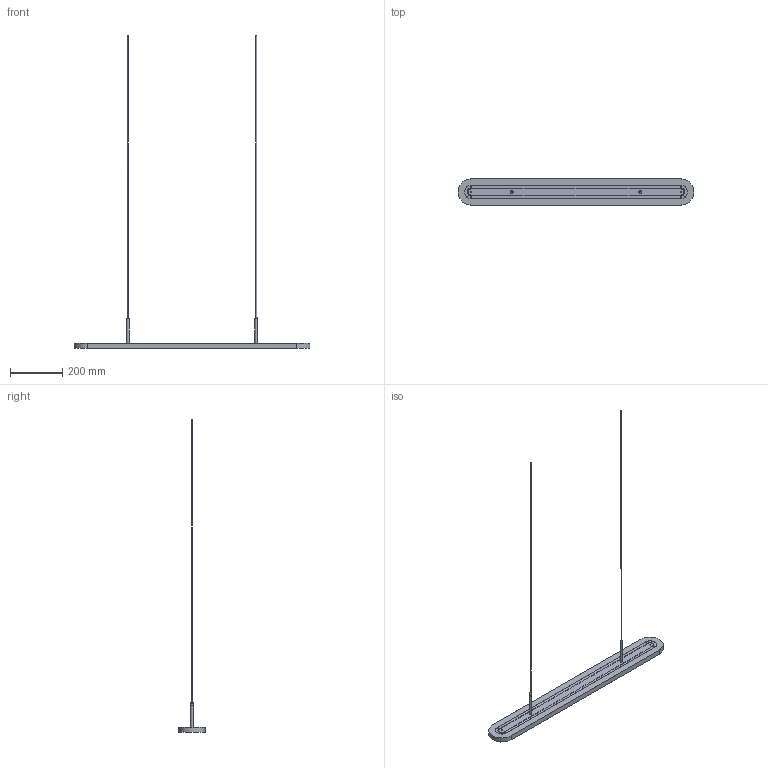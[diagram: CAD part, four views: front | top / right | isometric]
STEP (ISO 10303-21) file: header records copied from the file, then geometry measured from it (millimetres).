
FILE_DESCRIPTION(('HOOPS Exchange Step'),'2;1');
FILE_NAME('/Users/denyssokolov/Library/CloudStorage/GoogleDrive-svoyawork@gmail.com/Мій диск/Objects/PRESENTATION/46_FOG_lighting/NEW/FOG/fog_pill_900/models/FOG_pill_900.stp','2025-05-06T10:40:01+03:00',('denyssokolov'),('Unknown organisation'),'HOOPS Exchange 2024.2','HOOPS Exchange','Unknown authorisation');
FILE_SCHEMA( ('AP203_CONFIGURATION_CONTROLLED_3D_DESIGN_OF_MECHANICAL_PARTS_AND_ASSEMBLIES_MIM_LF') );
Length unit declared in the file: millimetre
Products named in the file (1): root
Bounding box: 900 x 100 x 1193.36 mm (x, y, z)
Volume: 1462611 mm3; surface area: 426935.8 mm2
Topology: 5 solids, 15 shells, 441 faces, 1087 edges, 675 vertices
Faces by surface type: plane 143, bspline 124, cone 124, cylinder 44, sphere 6
Full cylindrical faces by diameter (mm): 1.998 x12, 2 x6, 3 x12, 8 x3, 10 x5
Entity records: 21115 total; most frequent: CARTESIAN_POINT 11248, ORIENTED_EDGE 2140, DIRECTION 1838, EDGE_CURVE 1081, VERTEX_POINT 675, AXIS2_PLACEMENT_3D 671, VECTOR 496, LINE 496
